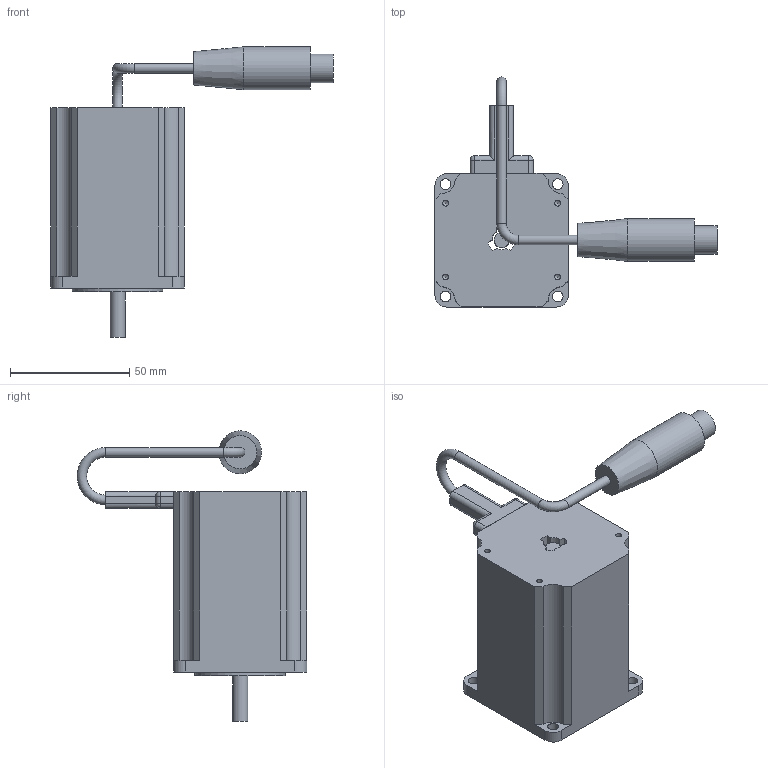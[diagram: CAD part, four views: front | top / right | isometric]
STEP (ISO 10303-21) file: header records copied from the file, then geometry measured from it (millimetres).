
FILE_DESCRIPTION((''),'2;1');
FILE_NAME('M:\0-Kreuzer\AS-Motoren\AS-Motoren_Step\AS-1050-0000.stp','2006-06-22T10:32:25',('ChristianKreuzer'),(''),'Autodesk Inventor 10','Autodesk Inventor 10','');
FILE_SCHEMA(('AUTOMOTIVE_DESIGN { 1 0 10303 214 1 1 1 1 }'));
Length unit declared in the file: millimetre
Products named in the file (1): AS-1050-0000
Bounding box: 118.5 x 96.5 x 121.9 mm (x, y, z)
Volume: 232336.5 mm3; surface area: 33159.5 mm2
Topology: 2 solids, 2 shells, 125 faces, 323 edges, 206 vertices
Faces by surface type: plane 48, cylinder 38, bspline 32, sphere 4, torus 2, cone 1
Full cylindrical faces by diameter (mm): 4 x2, 6.3 x1, 12 x1, 18 x1, 38.1 x1
Entity records: 3814 total; most frequent: CARTESIAN_POINT 1038, DIRECTION 560, ORIENTED_EDGE 532, EDGE_CURVE 266, AXIS2_PLACEMENT_3D 200, VERTEX_POINT 186, EDGE_LOOP 176, VECTOR 160
